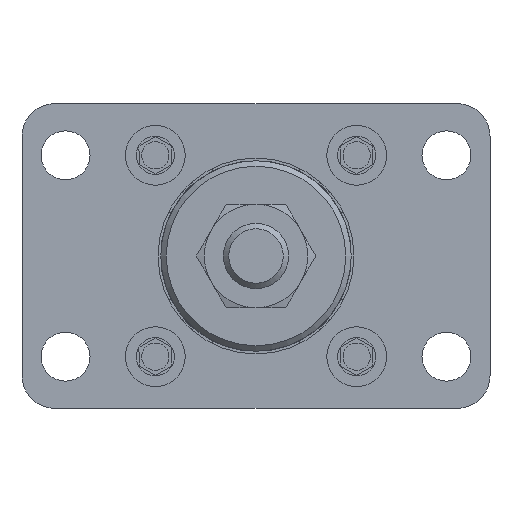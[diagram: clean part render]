
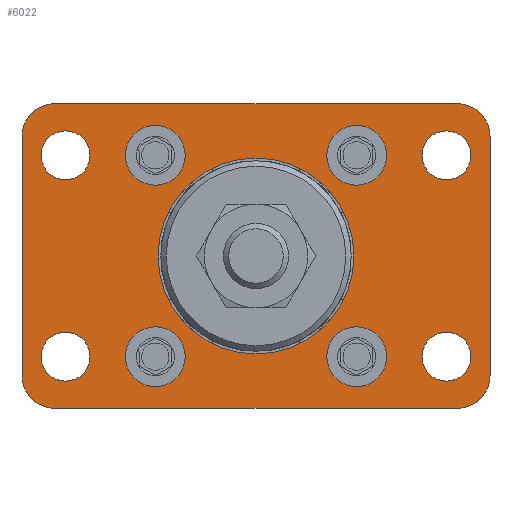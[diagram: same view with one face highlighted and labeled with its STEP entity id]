
A CAD part, front view. The second image highlights one B-rep face of the part: STEP entity #6022.
In plain terms, the highlighted planar face has unit normal (0, -1, 0).
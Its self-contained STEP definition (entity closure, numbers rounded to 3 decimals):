
#410=LINE('',#9183,#734);
#414=LINE('',#9192,#738);
#418=LINE('',#9201,#742);
#424=LINE('',#9215,#748);
#734=VECTOR('',#7797,1000.);
#738=VECTOR('',#7803,1000.);
#742=VECTOR('',#7809,1000.);
#748=VECTOR('',#7817,1000.);
#1963=ORIENTED_EDGE('',*,*,#2600,.T.);
#1964=ORIENTED_EDGE('',*,*,#2601,.T.);
#1965=ORIENTED_EDGE('',*,*,#2602,.T.);
#1966=ORIENTED_EDGE('',*,*,#2603,.T.);
#1967=ORIENTED_EDGE('',*,*,#2604,.T.);
#1968=ORIENTED_EDGE('',*,*,#2605,.T.);
#1969=ORIENTED_EDGE('',*,*,#2606,.T.);
#1970=ORIENTED_EDGE('',*,*,#2607,.T.);
#1971=ORIENTED_EDGE('',*,*,#2608,.T.);
#1972=ORIENTED_EDGE('',*,*,#2598,.T.);
#1973=ORIENTED_EDGE('',*,*,#2609,.T.);
#1974=ORIENTED_EDGE('',*,*,#2584,.T.);
#1975=ORIENTED_EDGE('',*,*,#2610,.T.);
#1976=ORIENTED_EDGE('',*,*,#2588,.T.);
#1977=ORIENTED_EDGE('',*,*,#2611,.T.);
#1978=ORIENTED_EDGE('',*,*,#2592,.T.);
#1979=ORIENTED_EDGE('',*,*,#2612,.T.);
#2584=EDGE_CURVE('',#3011,#3012,#410,.T.);
#2588=EDGE_CURVE('',#3015,#3016,#414,.T.);
#2592=EDGE_CURVE('',#3019,#3020,#418,.T.);
#2598=EDGE_CURVE('',#3026,#3025,#424,.T.);
#2600=EDGE_CURVE('',#3027,#3027,#3252,.F.);
#2601=EDGE_CURVE('',#3028,#3028,#3253,.T.);
#2602=EDGE_CURVE('',#3029,#3029,#3254,.T.);
#2603=EDGE_CURVE('',#3030,#3030,#3255,.T.);
#2604=EDGE_CURVE('',#3031,#3031,#3256,.T.);
#2605=EDGE_CURVE('',#3032,#3032,#3257,.T.);
#2606=EDGE_CURVE('',#3033,#3033,#3258,.T.);
#2607=EDGE_CURVE('',#3034,#3034,#3259,.T.);
#2608=EDGE_CURVE('',#3035,#3035,#3260,.T.);
#2609=EDGE_CURVE('',#3025,#3011,#3261,.T.);
#2610=EDGE_CURVE('',#3012,#3015,#3262,.T.);
#2611=EDGE_CURVE('',#3016,#3019,#3263,.T.);
#2612=EDGE_CURVE('',#3020,#3026,#3264,.T.);
#3011=VERTEX_POINT('',#9184);
#3012=VERTEX_POINT('',#9185);
#3015=VERTEX_POINT('',#9193);
#3016=VERTEX_POINT('',#9194);
#3019=VERTEX_POINT('',#9202);
#3020=VERTEX_POINT('',#9203);
#3025=VERTEX_POINT('',#9214);
#3026=VERTEX_POINT('',#9216);
#3027=VERTEX_POINT('',#9220);
#3028=VERTEX_POINT('',#9222);
#3029=VERTEX_POINT('',#9224);
#3030=VERTEX_POINT('',#9226);
#3031=VERTEX_POINT('',#9228);
#3032=VERTEX_POINT('',#9230);
#3033=VERTEX_POINT('',#9232);
#3034=VERTEX_POINT('',#9234);
#3035=VERTEX_POINT('',#9236);
#3252=CIRCLE('',#6530,18.);
#3253=CIRCLE('',#6531,5.5);
#3254=CIRCLE('',#6532,5.5);
#3255=CIRCLE('',#6533,5.5);
#3256=CIRCLE('',#6534,5.5);
#3257=CIRCLE('',#6535,4.5);
#3258=CIRCLE('',#6536,4.5);
#3259=CIRCLE('',#6537,4.5);
#3260=CIRCLE('',#6538,4.5);
#3261=CIRCLE('',#6539,6.);
#3262=CIRCLE('',#6540,6.);
#3263=CIRCLE('',#6541,6.);
#3264=CIRCLE('',#6542,6.);
#3618=EDGE_LOOP('',(#1963));
#3619=EDGE_LOOP('',(#1964));
#3620=EDGE_LOOP('',(#1965));
#3621=EDGE_LOOP('',(#1966));
#3622=EDGE_LOOP('',(#1967));
#3623=EDGE_LOOP('',(#1968));
#3624=EDGE_LOOP('',(#1969));
#3625=EDGE_LOOP('',(#1970));
#3626=EDGE_LOOP('',(#1971));
#3627=EDGE_LOOP('',(#1972,#1973,#1974,#1975,#1976,#1977,#1978,#1979));
#4008=FACE_BOUND('',#3618,.T.);
#4009=FACE_BOUND('',#3619,.T.);
#4010=FACE_BOUND('',#3620,.T.);
#4011=FACE_BOUND('',#3621,.T.);
#4012=FACE_BOUND('',#3622,.T.);
#4013=FACE_BOUND('',#3623,.T.);
#4014=FACE_BOUND('',#3624,.T.);
#4015=FACE_BOUND('',#3625,.T.);
#4016=FACE_BOUND('',#3626,.T.);
#4017=FACE_BOUND('',#3627,.T.);
#4203=PLANE('',#6529);
#6022=ADVANCED_FACE('',(#4008,#4009,#4010,#4011,#4012,#4013,#4014,#4015,
#4016,#4017),#4203,.T.);
#6529=AXIS2_PLACEMENT_3D('',#9218,#7819,#7820);
#6530=AXIS2_PLACEMENT_3D('',#9219,#7821,#7822);
#6531=AXIS2_PLACEMENT_3D('',#9221,#7823,#7824);
#6532=AXIS2_PLACEMENT_3D('',#9223,#7825,#7826);
#6533=AXIS2_PLACEMENT_3D('',#9225,#7827,#7828);
#6534=AXIS2_PLACEMENT_3D('',#9227,#7829,#7830);
#6535=AXIS2_PLACEMENT_3D('',#9229,#7831,#7832);
#6536=AXIS2_PLACEMENT_3D('',#9231,#7833,#7834);
#6537=AXIS2_PLACEMENT_3D('',#9233,#7835,#7836);
#6538=AXIS2_PLACEMENT_3D('',#9235,#7837,#7838);
#6539=AXIS2_PLACEMENT_3D('',#9237,#7839,#7840);
#6540=AXIS2_PLACEMENT_3D('',#9238,#7841,#7842);
#6541=AXIS2_PLACEMENT_3D('',#9239,#7843,#7844);
#6542=AXIS2_PLACEMENT_3D('',#9240,#7845,#7846);
#7797=DIRECTION('',(0.,0.,-1.));
#7803=DIRECTION('',(1.,0.,0.));
#7809=DIRECTION('',(0.,0.,1.));
#7817=DIRECTION('',(-1.,0.,0.));
#7819=DIRECTION('',(0.,-1.,0.));
#7820=DIRECTION('',(0.,0.,-1.));
#7821=DIRECTION('',(0.,-1.,0.));
#7822=DIRECTION('',(0.,0.,-1.));
#7823=DIRECTION('',(0.,1.,0.));
#7824=DIRECTION('',(0.,0.,-1.));
#7825=DIRECTION('',(0.,1.,0.));
#7826=DIRECTION('',(0.,0.,-1.));
#7827=DIRECTION('',(0.,1.,0.));
#7828=DIRECTION('',(0.,0.,-1.));
#7829=DIRECTION('',(0.,1.,0.));
#7830=DIRECTION('',(0.,0.,-1.));
#7831=DIRECTION('',(0.,1.,0.));
#7832=DIRECTION('',(1.,0.,0.));
#7833=DIRECTION('',(0.,1.,0.));
#7834=DIRECTION('',(1.,0.,0.));
#7835=DIRECTION('',(0.,1.,0.));
#7836=DIRECTION('',(1.,0.,0.));
#7837=DIRECTION('',(0.,1.,0.));
#7838=DIRECTION('',(1.,0.,0.));
#7839=DIRECTION('',(0.,-1.,0.));
#7840=DIRECTION('',(0.,0.,-1.));
#7841=DIRECTION('',(0.,-1.,0.));
#7842=DIRECTION('',(0.,0.,-1.));
#7843=DIRECTION('',(0.,-1.,0.));
#7844=DIRECTION('',(0.,0.,-1.));
#7845=DIRECTION('',(0.,-1.,0.));
#7846=DIRECTION('',(0.,0.,-1.));
#9183=CARTESIAN_POINT('',(-43.,-12.,28.));
#9184=CARTESIAN_POINT('',(-43.,-12.,22.));
#9185=CARTESIAN_POINT('',(-43.,-12.,-22.));
#9192=CARTESIAN_POINT('',(-43.,-12.,-28.));
#9193=CARTESIAN_POINT('',(-37.,-12.,-28.));
#9194=CARTESIAN_POINT('',(37.,-12.,-28.));
#9201=CARTESIAN_POINT('',(43.,-12.,-28.));
#9202=CARTESIAN_POINT('',(43.,-12.,-22.));
#9203=CARTESIAN_POINT('',(43.,-12.,22.));
#9214=CARTESIAN_POINT('',(-37.,-12.,28.));
#9215=CARTESIAN_POINT('',(43.,-12.,28.));
#9216=CARTESIAN_POINT('',(37.,-12.,28.));
#9218=CARTESIAN_POINT('',(0.,-12.,0.));
#9219=CARTESIAN_POINT('',(0.,-12.,0.));
#9220=CARTESIAN_POINT('',(0.,-12.,-18.));
#9221=CARTESIAN_POINT('',(-18.5,-12.,-18.5));
#9222=CARTESIAN_POINT('',(-18.5,-12.,-24.));
#9223=CARTESIAN_POINT('',(18.5,-12.,-18.5));
#9224=CARTESIAN_POINT('',(18.5,-12.,-24.));
#9225=CARTESIAN_POINT('',(18.5,-12.,18.5));
#9226=CARTESIAN_POINT('',(18.5,-12.,13.));
#9227=CARTESIAN_POINT('',(-18.5,-12.,18.5));
#9228=CARTESIAN_POINT('',(-18.5,-12.,13.));
#9229=CARTESIAN_POINT('',(35.,-12.,-18.5));
#9230=CARTESIAN_POINT('',(39.5,-12.,-18.5));
#9231=CARTESIAN_POINT('',(-35.,-12.,-18.5));
#9232=CARTESIAN_POINT('',(-30.5,-12.,-18.5));
#9233=CARTESIAN_POINT('',(-35.,-12.,18.5));
#9234=CARTESIAN_POINT('',(-30.5,-12.,18.5));
#9235=CARTESIAN_POINT('',(35.,-12.,18.5));
#9236=CARTESIAN_POINT('',(39.5,-12.,18.5));
#9237=CARTESIAN_POINT('',(-37.,-12.,22.));
#9238=CARTESIAN_POINT('',(-37.,-12.,-22.));
#9239=CARTESIAN_POINT('',(37.,-12.,-22.));
#9240=CARTESIAN_POINT('',(37.,-12.,22.));
